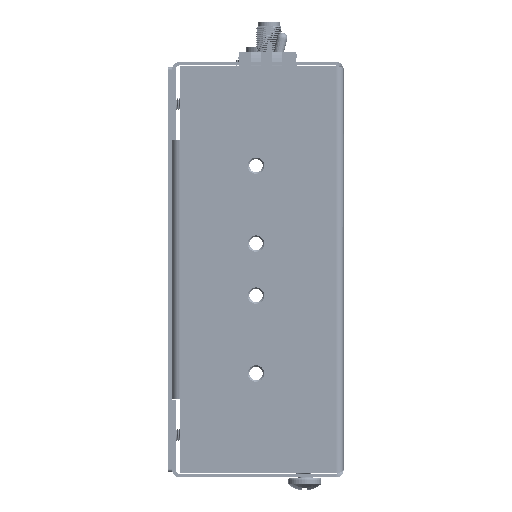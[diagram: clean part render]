
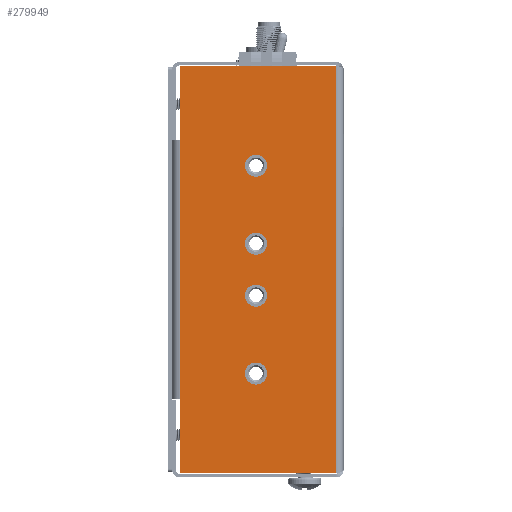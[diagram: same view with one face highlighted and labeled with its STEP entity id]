
A CAD part, left-side view. The second image highlights one B-rep face of the part: STEP entity #279949.
In plain terms, the highlighted planar face has unit normal (-1, 0, 0).
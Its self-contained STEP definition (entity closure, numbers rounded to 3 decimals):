
#48527=DIRECTION('',(0.,0.,-1.));
#48528=VECTOR('',#48527,3.915);
#48529=CARTESIAN_POINT('',(-11.351,-0.751,
3.56));
#48530=LINE('',#48529,#48528);
#48535=DIRECTION('',(0.,-1.,0.));
#48536=VECTOR('',#48535,1.5);
#48537=CARTESIAN_POINT('',(-11.351,0.75,
3.56));
#48538=LINE('',#48537,#48536);
#48581=DIRECTION('',(0.,0.,1.));
#48582=VECTOR('',#48581,2.486);
#48583=CARTESIAN_POINT('',(-11.351,0.75,
0.36));
#48584=LINE('',#48583,#48582);
#48675=DIRECTION('',(0.,0.,-1.));
#48676=VECTOR('',#48675,0.715);
#48677=CARTESIAN_POINT('',(-11.351,0.75,
0.36));
#48678=LINE('',#48677,#48676);
#48679=DIRECTION('',(0.,0.,-1.));
#48680=VECTOR('',#48679,0.715);
#48681=CARTESIAN_POINT('',(-11.351,0.75,
3.56));
#48682=LINE('',#48681,#48680);
#48683=CARTESIAN_POINT('',(-11.351,0.017,
1.852));
#48684=DIRECTION('',(1.,0.,0.));
#48685=DIRECTION('',(0.,-1.,0.));
#48686=AXIS2_PLACEMENT_3D('',#48683,#48684,#48685);
#48688=CARTESIAN_POINT('',(-11.351,0.017,
1.852));
#48689=DIRECTION('',(1.,0.,0.));
#48690=DIRECTION('',(0.,1.,0.));
#48691=AXIS2_PLACEMENT_3D('',#48688,#48689,#48690);
#48693=CARTESIAN_POINT('',(-11.351,0.017,
0.602));
#48694=DIRECTION('',(1.,0.,0.));
#48695=DIRECTION('',(0.,0.,1.));
#48696=AXIS2_PLACEMENT_3D('',#48693,#48694,#48695);
#48698=CARTESIAN_POINT('',(-11.351,0.017,
0.602));
#48699=DIRECTION('',(1.,0.,0.));
#48700=DIRECTION('',(0.,0.,-1.));
#48701=AXIS2_PLACEMENT_3D('',#48698,#48699,#48700);
#48703=CARTESIAN_POINT('',(-11.351,0.017,
1.352));
#48704=DIRECTION('',(1.,0.,0.));
#48705=DIRECTION('',(0.,0.,1.));
#48706=AXIS2_PLACEMENT_3D('',#48703,#48704,#48705);
#48708=CARTESIAN_POINT('',(-11.351,0.017,
1.352));
#48709=DIRECTION('',(1.,0.,0.));
#48710=DIRECTION('',(0.,0.,-1.));
#48711=AXIS2_PLACEMENT_3D('',#48708,#48709,#48710);
#48713=CARTESIAN_POINT('',(-11.351,0.017,
2.602));
#48714=DIRECTION('',(1.,0.,0.));
#48715=DIRECTION('',(0.,-1.,0.));
#48716=AXIS2_PLACEMENT_3D('',#48713,#48714,#48715);
#48718=CARTESIAN_POINT('',(-11.351,0.017,
2.602));
#48719=DIRECTION('',(1.,0.,0.));
#48720=DIRECTION('',(0.,1.,0.));
#48721=AXIS2_PLACEMENT_3D('',#48718,#48719,#48720);
#48727=DIRECTION('',(0.,1.,0.));
#48728=VECTOR('',#48727,1.5);
#48729=CARTESIAN_POINT('',(-11.351,-0.751,
-0.355));
#48730=LINE('',#48729,#48728);
#265699=CARTESIAN_POINT('',(-11.351,0.75,
0.36));
#265700=CARTESIAN_POINT('',(-11.351,0.75,
2.845));
#265701=VERTEX_POINT('',#265699);
#265702=VERTEX_POINT('',#265700);
#265830=CARTESIAN_POINT('',(-11.351,-0.089,
2.602));
#265831=CARTESIAN_POINT('',(-11.351,0.124,
2.602));
#265832=VERTEX_POINT('',#265830);
#265833=VERTEX_POINT('',#265831);
#266090=CARTESIAN_POINT('',(-11.351,0.75,
-0.355));
#266091=VERTEX_POINT('',#266090);
#266092=CARTESIAN_POINT('',(-11.351,-0.751,
-0.355));
#266093=VERTEX_POINT('',#266092);
#266094=CARTESIAN_POINT('',(-11.351,-0.089,
1.852));
#266095=CARTESIAN_POINT('',(-11.351,0.124,
1.852));
#266096=VERTEX_POINT('',#266094);
#266097=VERTEX_POINT('',#266095);
#266098=CARTESIAN_POINT('',(-11.351,-0.751,
3.56));
#266099=VERTEX_POINT('',#266098);
#266100=CARTESIAN_POINT('',(-11.351,0.75,
3.56));
#266101=VERTEX_POINT('',#266100);
#266102=CARTESIAN_POINT('',(-11.351,0.017,
0.496));
#266103=CARTESIAN_POINT('',(-11.351,0.017,
0.709));
#266104=VERTEX_POINT('',#266102);
#266105=VERTEX_POINT('',#266103);
#266106=CARTESIAN_POINT('',(-11.351,0.017,
1.246));
#266107=CARTESIAN_POINT('',(-11.351,0.017,
1.459));
#266108=VERTEX_POINT('',#266106);
#266109=VERTEX_POINT('',#266107);
#279910=CARTESIAN_POINT('',(-11.351,0.79,
-86.498));
#279911=DIRECTION('',(-1.,0.,0.));
#279912=DIRECTION('',(0.,1.,0.));
#279913=AXIS2_PLACEMENT_3D('',#279910,#279911,#279912);
#279914=PLANE('',#279913);
#279915=ORIENTED_EDGE('',*,*,#279656,.T.);
#279916=ORIENTED_EDGE('',*,*,#279586,.T.);
#279918=ORIENTED_EDGE('',*,*,#279917,.T.);
#279920=ORIENTED_EDGE('',*,*,#279919,.F.);
#279921=ORIENTED_EDGE('',*,*,#279759,.T.);
#279922=ORIENTED_EDGE('',*,*,#279669,.F.);
#279923=EDGE_LOOP('',(#279915,#279916,#279918,#279920,#279921,#279922));
#279924=FACE_OUTER_BOUND('',#279923,.F.);
#279926=ORIENTED_EDGE('',*,*,#279925,.F.);
#279928=ORIENTED_EDGE('',*,*,#279927,.F.);
#279929=EDGE_LOOP('',(#279926,#279928));
#279930=FACE_BOUND('',#279929,.F.);
#279932=ORIENTED_EDGE('',*,*,#279931,.F.);
#279934=ORIENTED_EDGE('',*,*,#279933,.F.);
#279935=EDGE_LOOP('',(#279932,#279934));
#279936=FACE_BOUND('',#279935,.F.);
#279938=ORIENTED_EDGE('',*,*,#279937,.F.);
#279940=ORIENTED_EDGE('',*,*,#279939,.F.);
#279941=EDGE_LOOP('',(#279938,#279940));
#279942=FACE_BOUND('',#279941,.F.);
#279944=ORIENTED_EDGE('',*,*,#279943,.F.);
#279946=ORIENTED_EDGE('',*,*,#279945,.F.);
#279947=EDGE_LOOP('',(#279944,#279946));
#279948=FACE_BOUND('',#279947,.F.);
#279949=ADVANCED_FACE('',(#279924,#279930,#279936,#279942,#279948),#279914,.T.);
#48687=CIRCLE('',#48686,0.107);
#48692=CIRCLE('',#48691,0.107);
#48697=CIRCLE('',#48696,0.107);
#48702=CIRCLE('',#48701,0.107);
#48707=CIRCLE('',#48706,0.107);
#48712=CIRCLE('',#48711,0.107);
#48717=CIRCLE('',#48716,0.107);
#48722=CIRCLE('',#48721,0.107);
#279586=EDGE_CURVE('',#266099,#266093,#48530,.T.);
#279656=EDGE_CURVE('',#266101,#266099,#48538,.T.);
#279669=EDGE_CURVE('',#266101,#265702,#48682,.T.);
#279759=EDGE_CURVE('',#265701,#265702,#48584,.T.);
#279917=EDGE_CURVE('',#266093,#266091,#48730,.T.);
#279919=EDGE_CURVE('',#265701,#266091,#48678,.T.);
#279925=EDGE_CURVE('',#266096,#266097,#48687,.T.);
#279927=EDGE_CURVE('',#266097,#266096,#48692,.T.);
#279931=EDGE_CURVE('',#266105,#266104,#48697,.T.);
#279933=EDGE_CURVE('',#266104,#266105,#48702,.T.);
#279937=EDGE_CURVE('',#266109,#266108,#48707,.T.);
#279939=EDGE_CURVE('',#266108,#266109,#48712,.T.);
#279943=EDGE_CURVE('',#265832,#265833,#48717,.T.);
#279945=EDGE_CURVE('',#265833,#265832,#48722,.T.);
